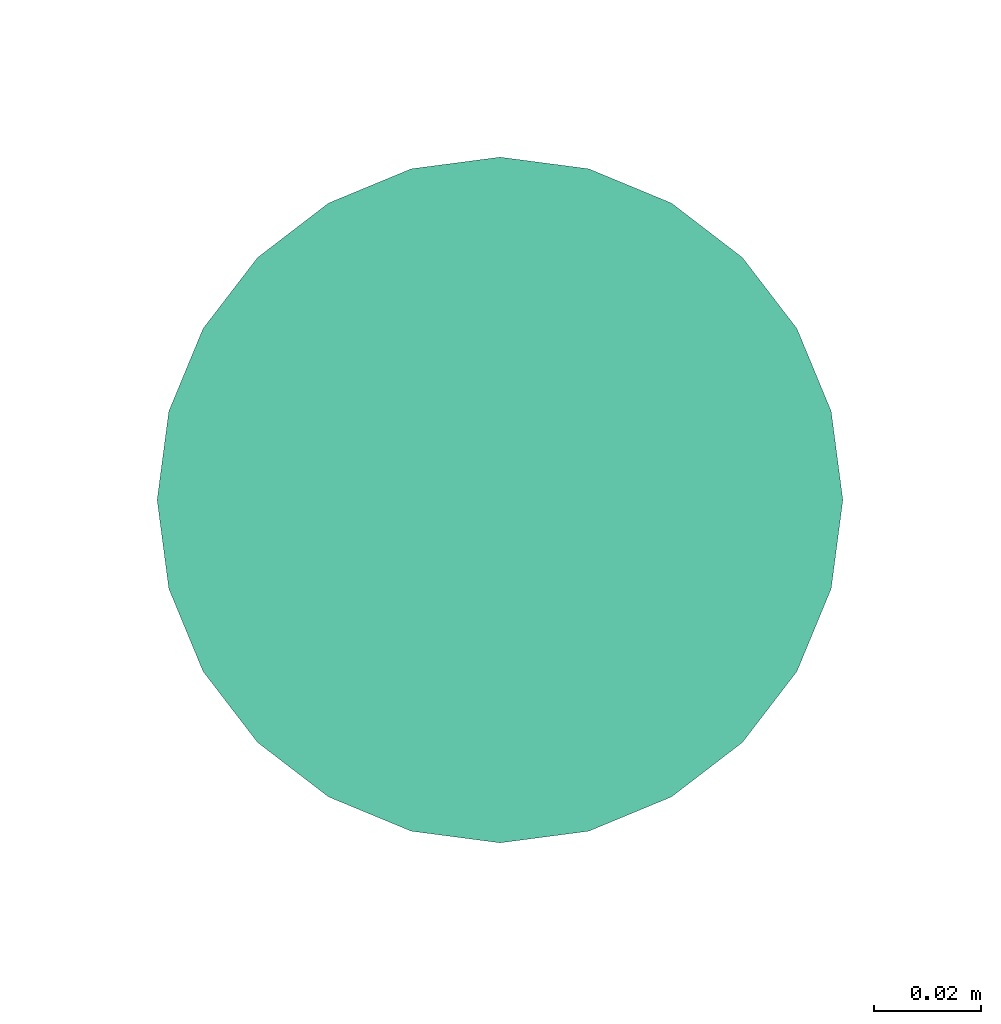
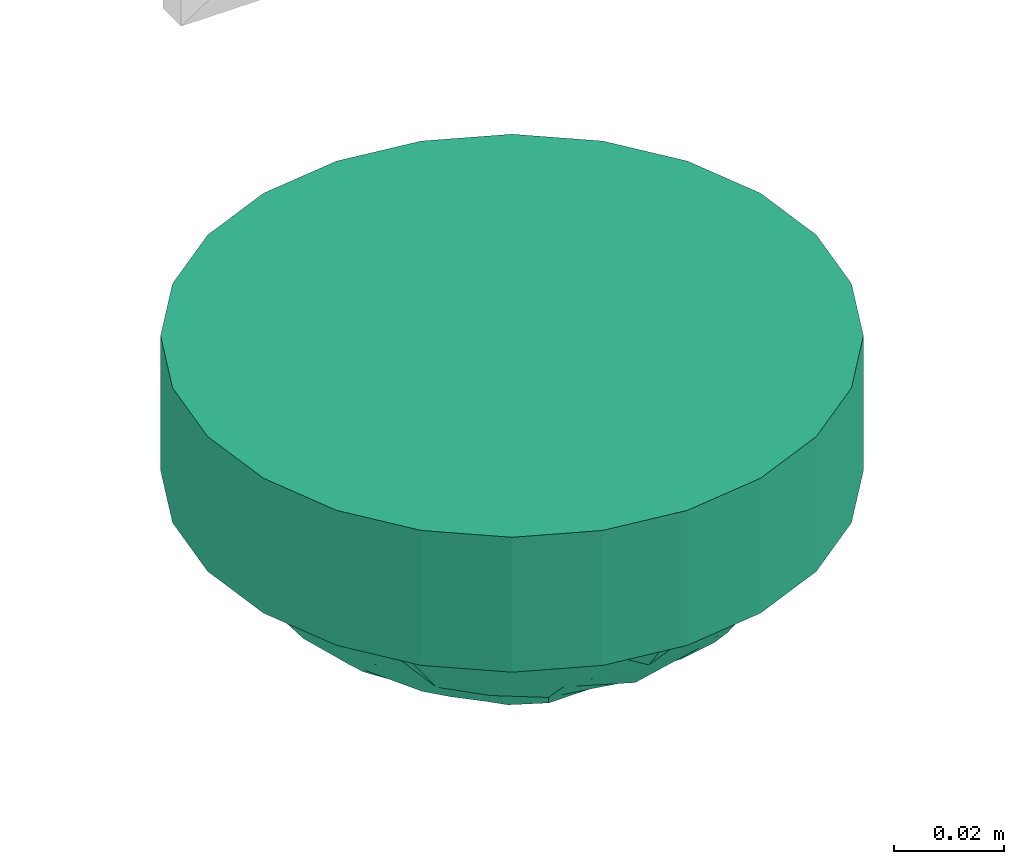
# One storey, part 102 of 146: 1 flow terminal.
"""IFC2X3 building model written with IfcOpenShell, lengths in metres."""

from ifc_helpers import new_model, entity, si_unit, converted_unit, derived_unit, direction, frame, origin, place, context, subcontext, project, spatial, faceted_brep, source, transform, mapped, type_object, type_shapes, element, save


model = new_model("IFC2X3")

# Units and contexts
model_context = context("Model", 3, precision=1e-05, world=origin(), true_north=direction((6.12303176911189e-17, 1.0)))
body_context = subcontext(model_context, "Body", "Model", "MODEL_VIEW")
ifc_project = project(units=[si_unit("LENGTHUNIT", "METRE"), si_unit("AREAUNIT", "SQUARE_METRE"), si_unit("VOLUMEUNIT", "CUBIC_METRE"), converted_unit("PLANEANGLEUNIT", "DEGREE", entity("IfcRatioMeasure", 0.0174532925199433), si_unit("PLANEANGLEUNIT", "RADIAN"), dimensions=[0, 0, 0, 0, 0, 0, 0]), si_unit("MASSUNIT", "GRAM", prefix="KILO"), derived_unit("MASSDENSITYUNIT", [(si_unit("MASSUNIT", "GRAM", prefix="KILO"), 1), (si_unit("LENGTHUNIT", "METRE"), -3)]), si_unit("TIMEUNIT", "SECOND"), si_unit("FREQUENCYUNIT", "HERTZ"), si_unit("THERMODYNAMICTEMPERATUREUNIT", "DEGREE_CELSIUS"), derived_unit("THERMALTRANSMITTANCEUNIT", [(si_unit("MASSUNIT", "GRAM", prefix="KILO"), 1), (si_unit("THERMODYNAMICTEMPERATUREUNIT", "KELVIN"), -1), (si_unit("TIMEUNIT", "SECOND"), -3)]), derived_unit("VOLUMETRICFLOWRATEUNIT", [(si_unit("LENGTHUNIT", "METRE"), 3), (si_unit("TIMEUNIT", "SECOND"), -1)]), si_unit("ELECTRICCURRENTUNIT", "AMPERE"), si_unit("ELECTRICVOLTAGEUNIT", "VOLT"), si_unit("POWERUNIT", "WATT"), si_unit("FORCEUNIT", "NEWTON"), si_unit("ILLUMINANCEUNIT", "LUX"), si_unit("LUMINOUSFLUXUNIT", "LUMEN"), si_unit("LUMINOUSINTENSITYUNIT", "CANDELA"), derived_unit("USERDEFINED", [(si_unit("MASSUNIT", "GRAM", prefix="KILO"), -1), (si_unit("LENGTHUNIT", "METRE"), -2), (si_unit("TIMEUNIT", "SECOND"), 3), (si_unit("LUMINOUSFLUXUNIT", "LUMEN"), 1)]), derived_unit("LINEARVELOCITYUNIT", [(si_unit("LENGTHUNIT", "METRE"), 1), (si_unit("TIMEUNIT", "SECOND"), -1)]), si_unit("PRESSUREUNIT", "PASCAL"), derived_unit("USERDEFINED", [(si_unit("LENGTHUNIT", "METRE"), -2), (si_unit("MASSUNIT", "GRAM", prefix="KILO"), 1), (si_unit("TIMEUNIT", "SECOND"), -2)])], contexts=[model_context])

# Site, building, storey
site_placement = place(None, origin())
site = spatial("IfcSite", under=ifc_project, at=site_placement, Name="Default", CompositionType="ELEMENT")
building_placement = place(site_placement, origin())
building = spatial("IfcBuilding", under=site, at=building_placement, CompositionType="ELEMENT")
storey_placement = place(building_placement, origin())
storey = spatial("IfcBuildingStorey", under=building, at=storey_placement, Name="S01", CompositionType="ELEMENT", Elevation=0.0)

# Flow terminal
light_fixture_type = type_object("IfcLightFixtureType", Name="Détecteur 360°", PredefinedType="NOTDEFINED")
shared_shape = source(origin(), body_context, "Body", "Brep", [
    faceted_brep([(0.0, -0.0397165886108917, 0.0531256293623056), (0.0, -0.034524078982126, 0.0563702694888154), (-0.0175153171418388, -0.0435914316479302, 0.0478512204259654), (-0.0194029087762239, -0.000878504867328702, 0.0644483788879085), (0.0, 0.0, 0.0669999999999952), (0.0, 0.00603476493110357, 0.0659648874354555), (-0.0174057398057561, -0.0159851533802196, 0.0630502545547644), (-0.0366619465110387, -0.0127227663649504, 0.0549213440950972), (-0.026998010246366, -0.0195753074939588, 0.0584711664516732), (-0.0202403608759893, -0.0335607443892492, 0.054639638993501), (-0.0359767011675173, -0.0348394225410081, 0.0444249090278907), (-0.0276843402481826, -0.0401006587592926, 0.0459804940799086), (-0.0133088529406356, -0.0517577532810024, 0.0400582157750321), (-0.0172617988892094, -0.0486391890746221, 0.042533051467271), (-0.0256912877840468, -0.0533485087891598, 0.0299999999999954), (-0.0462941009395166, -0.0369183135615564, 0.0299999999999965), (0.0, -0.0241390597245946, 0.0628595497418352), (-0.0186245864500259, -0.0267295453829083, 0.0589100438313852), (-0.0139070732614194, -0.0374370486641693, 0.0540817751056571), (0.0, 0.0449090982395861, 0.049880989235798), (-0.0172618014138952, 0.0486391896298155, 0.0425330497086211), (0.0, 0.0397165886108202, 0.0531256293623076), (-0.0186245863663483, 0.0267295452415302, 0.0589100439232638), (-0.0202403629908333, 0.0335607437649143, 0.054639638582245), (-0.0353547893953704, 0.0284533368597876, 0.0494330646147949), (0.0, 0.0120695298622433, 0.0649297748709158), (-0.0249385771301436, 0.0204731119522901, 0.0590841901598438), (-0.0191783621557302, 0.0150189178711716, 0.062775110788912), (-0.0465404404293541, -0.0196510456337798, 0.0438984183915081), (-0.052010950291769, -0.0250471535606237, 0.029999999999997), (-0.0453471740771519, -0.0286501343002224, 0.0397747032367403), (-0.0365036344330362, -0.0226255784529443, 0.0516441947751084), (-0.0175153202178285, 0.0435914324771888, 0.0478512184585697), (-0.0359926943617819, 0.0451334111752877, 0.0299999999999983), (-0.0276843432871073, 0.0401006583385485, 0.0459804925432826), (-0.00849704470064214, -0.0572729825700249, 0.0299999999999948), (0.0, -0.0592123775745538, 0.0299999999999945), (0.0, -0.0545512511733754, 0.0364787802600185), (0.0, -0.049890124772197, 0.0429575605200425), (-0.0169940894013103, -0.055333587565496, 0.0299999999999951), (-0.0359767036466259, 0.0348394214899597, 0.0444249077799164), (-0.025691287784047, 0.0533485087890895, 0.0299999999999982), (-0.0308419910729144, 0.0492409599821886, 0.0299999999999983), (-0.0130265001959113, 0.0514867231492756, 0.040526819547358), (-0.0169940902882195, 0.0553335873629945, 0.029999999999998), (0.0, 0.0498901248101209, 0.0429575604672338), (-0.0353547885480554, -0.0284533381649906, 0.0494330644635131), (0.0, 0.0181042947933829, 0.0638946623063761), (-0.0473669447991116, -0.00128092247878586, 0.0474310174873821), (-0.0485435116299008, -0.00908961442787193, 0.0452357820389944), (-0.0366597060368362, -0.0032867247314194, 0.0563153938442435), (-0.0226425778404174, -0.0107553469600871, 0.0624973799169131), (0.0, -0.00603476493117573, 0.0659648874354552), (0.0, 0.0293315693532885, 0.0596149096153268), (-0.0139070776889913, 0.0374370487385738, 0.0540817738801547), (-0.0449600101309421, 0.018422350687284, 0.0461366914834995), (-0.0453471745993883, 0.0286501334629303, 0.0397747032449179), (-0.0476906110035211, 0.00670602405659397, 0.0466053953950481), (-0.0577277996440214, 0.0131759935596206, 0.0299999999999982), (-0.0577277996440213, 0.00658799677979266, 0.029999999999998), (-0.0577277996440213, 0.0, 0.0299999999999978), (0.0, -0.0449090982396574, 0.0498809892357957), (-0.0308419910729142, -0.049240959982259, 0.0299999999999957), (-0.0359926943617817, -0.0451334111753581, 0.029999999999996), (0.0, 0.0345240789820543, 0.0563702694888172), (-0.0411433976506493, 0.0410258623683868, 0.0299999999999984), (-0.0462941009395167, 0.0369183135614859, 0.0299999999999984), (-0.0491525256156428, -0.03098273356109, 0.0299999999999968), (-0.0577277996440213, -0.0131759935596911, 0.0299999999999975), (0.0, -0.018104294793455, 0.0638946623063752), (-0.0377433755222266, 0.0044838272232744, 0.0554913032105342), (-0.0577277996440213, -0.00658799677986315, 0.0299999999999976), (-0.0385149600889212, 0.0124844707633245, 0.0536578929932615), (-0.0491525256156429, 0.0309827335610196, 0.0299999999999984), (-0.0548693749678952, 0.0191115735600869, 0.0299999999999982), (0.0, 0.0241390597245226, 0.0628595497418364), (-0.014625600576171, 0.0100436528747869, 0.0649170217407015), (-0.0271766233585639, 0.00920278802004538, 0.0609170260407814), (0.0, -0.0120695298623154, 0.0649297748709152), (-0.0520109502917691, 0.0250471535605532, 0.0299999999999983), (-0.0411433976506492, -0.0410258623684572, 0.0299999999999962), (-0.0548693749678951, -0.0191115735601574, 0.0299999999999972), (0.0, -0.0293315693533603, 0.0596149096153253), (0.0, 0.0545512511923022, 0.0364787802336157), (0.0, 0.0592123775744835, 0.0299999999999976), (-0.00849704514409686, 0.057272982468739, 0.0299999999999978), (-0.0127455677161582, 0.0563032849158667, 0.0299999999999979), (-0.0213426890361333, 0.054341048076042, 0.0299999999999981), (0.0175153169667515, 0.0435914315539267, 0.0478512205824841), (0.0194029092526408, 0.000878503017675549, 0.0644483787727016), (0.017405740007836, 0.0159851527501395, 0.0630502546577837), (0.0366619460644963, 0.012722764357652, 0.0549213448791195), (0.0269980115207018, 0.0195753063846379, 0.0584711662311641), (0.0202403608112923, 0.0335607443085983, 0.0546396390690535), (0.0359767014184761, 0.0348394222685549, 0.0444249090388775), (0.0276843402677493, 0.0401006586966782, 0.0459804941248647), (0.0133088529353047, 0.0517577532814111, 0.0400582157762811), (0.0172617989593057, 0.0486391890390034, 0.0425330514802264), (0.0256912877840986, 0.0533485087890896, 0.0299999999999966), (0.0462941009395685, 0.0369183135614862, 0.0299999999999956), (0.00849704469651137, 0.0572729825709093, 0.0299999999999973), (0.0169940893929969, 0.0553335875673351, 0.029999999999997), (0.0172617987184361, -0.0486391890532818, 0.0425330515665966), (0.025691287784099, -0.0533485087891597, 0.0299999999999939), (0.0308419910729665, -0.0492409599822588, 0.0299999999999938), (0.0175153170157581, -0.0435914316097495, 0.0478512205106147), (0.0186245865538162, -0.0267295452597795, 0.0589100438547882), (0.0202403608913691, -0.03356074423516, 0.0546396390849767), (0.0353547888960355, -0.0284533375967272, 0.0494330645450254), (0.0249385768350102, -0.0204731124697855, 0.0590841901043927), (0.0191783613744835, -0.0150189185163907, 0.062775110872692), (0.0465404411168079, 0.0196510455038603, 0.0438984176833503), (0.0577277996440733, 0.0131759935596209, 0.0299999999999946), (0.0548693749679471, 0.0191115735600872, 0.0299999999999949), (0.0520109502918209, 0.0250471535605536, 0.0299999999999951), (0.0365036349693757, 0.0226255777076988, 0.0516441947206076), (0.0186245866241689, 0.0267295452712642, 0.0589100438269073), (0.0359926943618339, -0.0451334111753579, 0.0299999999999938), (0.0276843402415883, -0.0401006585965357, 0.0459804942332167), (0.0139070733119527, 0.0374370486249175, 0.0540817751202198), (0.0359767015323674, -0.0348394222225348, 0.044424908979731), (0.0226425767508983, 0.0107553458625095, 0.0624973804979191), (0.0169940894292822, -0.0553335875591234, 0.0299999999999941), (0.0130264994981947, -0.0514867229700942, 0.0405268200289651), (0.0453471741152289, 0.0286501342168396, 0.039774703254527), (0.0353547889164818, 0.0284533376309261, 0.0494330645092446), (0.0473669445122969, 0.00128092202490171, 0.0474310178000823), (0.0485435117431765, 0.00908961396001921, 0.0452357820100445), (0.0366597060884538, 0.00328672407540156, 0.0563153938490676), (0.0139070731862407, -0.0374370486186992, 0.0540817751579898), (0.0449600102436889, -0.018422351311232, 0.0461366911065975), (0.0453471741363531, -0.0286501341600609, 0.039774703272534), (0.0476906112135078, -0.00670602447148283, 0.046605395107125), (0.0577277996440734, -0.0131759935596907, 0.0299999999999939), (0.0577277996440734, -0.00658799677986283, 0.0299999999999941), (0.0577277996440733, 0.0, 0.0299999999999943), (0.0308419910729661, 0.0492409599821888, 0.0299999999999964), (0.0359926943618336, 0.0451334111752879, 0.0299999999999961), (0.0411433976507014, -0.041025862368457, 0.0299999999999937), (0.0462941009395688, -0.0369183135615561, 0.0299999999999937), (0.0491525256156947, 0.0309827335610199, 0.0299999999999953), (0.037743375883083, -0.00448382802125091, 0.0554913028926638), (0.0577277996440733, 0.00658799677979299, 0.0299999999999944), (0.0385149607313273, -0.0124844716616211, 0.0536578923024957), (0.049152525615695, -0.0309827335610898, 0.0299999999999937), (0.0548693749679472, -0.0191115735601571, 0.0299999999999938), (0.0146256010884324, -0.0100436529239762, 0.0649170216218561), (0.0271766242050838, -0.00920278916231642, 0.0609170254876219), (0.0520109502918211, -0.0250471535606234, 0.0299999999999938), (0.041143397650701, 0.0410258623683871, 0.0299999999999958), (0.00849704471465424, -0.0572729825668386, 0.0299999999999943), (0.0127455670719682, -0.056303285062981, 0.0299999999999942), (0.0213426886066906, -0.0543410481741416, 0.029999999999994), (0.0, 0.0, 0.0299999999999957)], [[[0, 1, 2]], [[3, 4, 5]], [[6, 7, 8]], [[9, 10, 11]], [[12, 13, 14]], [[10, 15, 11]], [[9, 16, 17]], [[18, 9, 11]], [[19, 20, 21]], [[22, 23, 24]], [[25, 26, 27]], [[28, 29, 30]], [[8, 31, 17]], [[32, 33, 34]], [[35, 36, 37, 38, 39]], [[23, 40, 24]], [[20, 41, 42]], [[19, 43, 20]], [[44, 43, 45]], [[20, 32, 21]], [[30, 10, 46]], [[22, 26, 47]], [[48, 49, 50]], [[3, 51, 52]], [[53, 54, 23]], [[55, 24, 56]], [[57, 58, 59, 60]], [[13, 61, 0]], [[13, 0, 2]], [[2, 62, 13]], [[18, 2, 1]], [[2, 11, 63]], [[32, 64, 21]], [[32, 42, 33]], [[34, 33, 65, 66]], [[20, 42, 32]], [[54, 32, 34]], [[28, 30, 31]], [[10, 67, 15]], [[49, 68, 28]], [[8, 17, 69]], [[7, 6, 51]], [[28, 31, 7]], [[57, 48, 70]], [[58, 57, 55]], [[48, 71, 49]], [[70, 48, 50]], [[3, 50, 51]], [[55, 26, 24]], [[72, 57, 70]], [[26, 55, 72]], [[56, 40, 73]], [[56, 74, 55]], [[47, 75, 22]], [[52, 4, 3]], [[7, 50, 49]], [[5, 76, 3]], [[70, 3, 77]], [[51, 78, 52]], [[26, 25, 47]], [[76, 25, 27]], [[23, 22, 75]], [[26, 22, 24]], [[53, 64, 54]], [[23, 34, 40]], [[66, 40, 34]], [[40, 66, 73]], [[56, 73, 79, 74]], [[72, 27, 26]], [[40, 56, 24]], [[23, 75, 53]], [[69, 17, 16]], [[78, 6, 69]], [[46, 10, 9]], [[46, 9, 17]], [[50, 7, 51]], [[30, 29, 67]], [[80, 63, 11, 15]], [[28, 68, 81, 29]], [[10, 30, 67]], [[30, 46, 31]], [[82, 18, 1]], [[82, 16, 9]], [[28, 7, 49]], [[12, 39, 38]], [[61, 13, 12]], [[83, 84, 85, 86, 44, 45]], [[43, 41, 20]], [[44, 87, 41, 43]], [[32, 54, 64]], [[23, 54, 34]], [[9, 18, 82]], [[2, 18, 11]], [[39, 12, 14]], [[38, 61, 12]], [[62, 2, 63]], [[62, 14, 13]], [[17, 31, 46]], [[7, 31, 8]], [[48, 60, 71]], [[71, 68, 49]], [[60, 48, 57]], [[3, 70, 50]], [[72, 70, 77]], [[72, 77, 27]], [[55, 57, 72]], [[74, 58, 55]], [[76, 27, 77]], [[3, 76, 77]], [[25, 76, 5]], [[69, 6, 8]], [[78, 51, 6]], [[45, 43, 19]], [[21, 64, 88]], [[89, 4, 52]], [[90, 91, 92]], [[93, 94, 95]], [[96, 97, 98]], [[94, 99, 95]], [[100, 84, 83, 45, 101]], [[102, 103, 104]], [[102, 105, 0]], [[106, 107, 108]], [[78, 109, 110]], [[111, 112, 113, 114]], [[92, 115, 116]], [[105, 117, 118]], [[119, 93, 95]], [[107, 120, 108]], [[89, 121, 5]], [[122, 123, 38]], [[61, 123, 102]], [[93, 75, 116]], [[124, 94, 125]], [[106, 109, 69]], [[126, 127, 128]], [[61, 102, 0]], [[82, 129, 107]], [[130, 108, 131]], [[132, 133, 134, 135]], [[97, 19, 21]], [[97, 21, 88]], [[88, 136, 97]], [[119, 88, 64]], [[88, 95, 137]], [[105, 1, 0]], [[105, 104, 117]], [[118, 117, 138, 139]], [[102, 104, 105]], [[129, 105, 118]], [[111, 124, 115]], [[94, 140, 99]], [[127, 112, 111]], [[92, 116, 47]], [[91, 90, 121]], [[111, 115, 91]], [[132, 126, 141]], [[133, 132, 130]], [[126, 142, 127]], [[141, 126, 128]], [[89, 128, 121]], [[130, 109, 108]], [[143, 132, 141]], [[109, 130, 143]], [[131, 120, 144]], [[131, 145, 130]], [[69, 16, 106]], [[5, 4, 89]], [[91, 128, 127]], [[52, 146, 89]], [[141, 89, 147]], [[121, 25, 5]], [[109, 78, 69]], [[146, 78, 110]], [[107, 106, 16]], [[109, 106, 108]], [[82, 1, 129]], [[107, 118, 120]], [[139, 120, 118]], [[120, 139, 144]], [[131, 144, 148, 145]], [[143, 110, 109]], [[120, 131, 108]], [[107, 16, 82]], [[47, 116, 75]], [[25, 90, 47]], [[125, 94, 93]], [[125, 93, 116]], [[128, 91, 121]], [[124, 114, 140]], [[149, 137, 95, 99]], [[111, 114, 124]], [[94, 124, 140]], [[124, 125, 115]], [[53, 119, 64]], [[53, 75, 93]], [[111, 91, 127]], [[96, 101, 45]], [[19, 97, 96]], [[37, 36, 150, 151, 122, 38]], [[123, 103, 102]], [[122, 152, 103, 123]], [[105, 129, 1]], [[107, 129, 118]], [[93, 119, 53]], [[88, 119, 95]], [[101, 96, 98]], [[45, 19, 96]], [[136, 88, 137]], [[136, 98, 97]], [[116, 115, 125]], [[91, 115, 92]], [[126, 135, 142]], [[142, 112, 127]], [[135, 126, 132]], [[89, 141, 128]], [[143, 141, 147]], [[143, 147, 110]], [[130, 132, 143]], [[145, 133, 130]], [[146, 110, 147]], [[89, 146, 147]], [[78, 146, 52]], [[47, 90, 92]], [[25, 121, 90]], [[38, 123, 61]], [[153, 66, 65]], [[153, 65, 33]], [[153, 33, 42]], [[153, 42, 41]], [[153, 41, 87]], [[153, 73, 66]], [[153, 79, 73]], [[153, 74, 79]], [[153, 58, 74]], [[153, 87, 44]], [[153, 44, 86]], [[153, 86, 85]], [[153, 85, 84]], [[153, 84, 100]], [[153, 59, 58]], [[153, 60, 59]], [[153, 71, 60]], [[153, 68, 71]], [[153, 81, 68]], [[153, 29, 81]], [[153, 67, 29]], [[153, 15, 67]], [[153, 80, 15]], [[153, 63, 80]], [[153, 62, 63]], [[153, 14, 62]], [[153, 39, 14]], [[153, 35, 39]], [[153, 36, 35]], [[153, 100, 101]], [[153, 101, 98]], [[153, 98, 136]], [[153, 136, 137]], [[153, 137, 149]], [[153, 149, 99]], [[153, 99, 140]], [[153, 140, 114]], [[153, 114, 113]], [[153, 113, 112]], [[153, 112, 142]], [[153, 150, 36]], [[153, 151, 150]], [[153, 122, 151]], [[153, 152, 122]], [[153, 103, 152]], [[153, 104, 103]], [[153, 117, 104]], [[153, 138, 117]], [[153, 139, 138]], [[153, 144, 139]], [[153, 148, 144]], [[153, 145, 148]], [[153, 133, 145]], [[153, 142, 135]], [[153, 135, 134]], [[153, 134, 133]]]),
    faceted_brep([(0.0165644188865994, -0.0618192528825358, 0.029999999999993), (0.0320000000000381, -0.0554256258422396, 0.0299999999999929), (0.0452548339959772, -0.0452548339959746, 0.0299999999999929), (0.0554256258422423, -0.0320000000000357, 0.029999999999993), (0.0618192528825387, -0.016564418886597, 0.0299999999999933), (0.0640000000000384, 0.0, 0.0299999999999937), (0.0618192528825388, 0.016564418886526, 0.0299999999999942), (0.0554256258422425, 0.0319999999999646, 0.0299999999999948), (0.0452548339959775, 0.0452548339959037, 0.0299999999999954), (0.0320000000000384, 0.0554256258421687, 0.0299999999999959), (0.0165644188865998, 0.061819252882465, 0.0299999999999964), (0.0, 0.0639999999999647, 0.0299999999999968), (-0.0165644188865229, 0.061819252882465, 0.0299999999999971), (-0.0319999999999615, 0.0554256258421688, 0.0299999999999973), (-0.0452548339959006, 0.0452548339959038, 0.0299999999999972), (-0.0554256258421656, 0.0319999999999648, 0.0299999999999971), (-0.0618192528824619, 0.0165644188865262, 0.0299999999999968), (-0.0639999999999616, 0.0, 0.0299999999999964), (-0.061819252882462, -0.0165644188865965, 0.0299999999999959), (-0.0554256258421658, -0.0320000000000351, 0.0299999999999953), (-0.0452548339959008, -0.0452548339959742, 0.0299999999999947), (-0.0319999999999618, -0.0554256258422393, 0.0299999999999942), (-0.0165644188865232, -0.0618192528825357, 0.0299999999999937), (0.0, -0.0640000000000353, 0.0299999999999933), (0.0165644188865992, 0.0618192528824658, 0.0), (0.0320000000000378, 0.0554256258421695, 0.0), (0.0452548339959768, 0.0452548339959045, 0.0), (0.0554256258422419, 0.0319999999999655, 0.0), (0.0618192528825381, 0.0165644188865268, 0.0), (0.0640000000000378, 0.0, 0.0), (0.061819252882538, -0.0165644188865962, 0.0), (0.0554256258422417, -0.0320000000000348, 0.0), (0.0452548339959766, -0.0452548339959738, 0.0), (0.0320000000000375, -0.0554256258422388, 0.0), (0.0165644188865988, -0.061819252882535, 0.0), (0.0, -0.0640000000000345, 0.0), (-0.0165644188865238, -0.0618192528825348, 0.0), (-0.0319999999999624, -0.0554256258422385, 0.0), (-0.0452548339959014, -0.0452548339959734, 0.0), (-0.0554256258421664, -0.0320000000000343, 0.0), (-0.0618192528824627, -0.0165644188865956, 0.0), (-0.0639999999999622, 0.0, 0.0), (-0.0618192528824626, 0.016564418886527, 0.0), (-0.0554256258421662, 0.0319999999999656, 0.0), (-0.0452548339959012, 0.0452548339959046, 0.0), (-0.0319999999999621, 0.0554256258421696, 0.0), (-0.0165644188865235, 0.0618192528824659, 0.0), (0.0, 0.0639999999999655, 0.0)], [[[0, 1, 2, 3, 4, 5, 6, 7, 8, 9, 10, 11, 12, 13, 14, 15, 16, 17, 18, 19, 20, 21, 22, 23]], [[24, 25, 26, 27, 28, 29, 30, 31, 32, 33, 34, 35, 36, 37, 38, 39, 40, 41, 42, 43, 44, 45, 46, 47]], [[40, 18, 17, 41]], [[39, 19, 18, 40]], [[21, 20, 38, 37]], [[39, 38, 20, 19]], [[22, 21, 37, 36]], [[23, 22, 36, 35]], [[34, 0, 23, 35]], [[33, 1, 0, 34]], [[3, 2, 32, 31]], [[33, 32, 2, 1]], [[4, 3, 31, 30]], [[5, 4, 30, 29]], [[28, 6, 5, 29]], [[27, 7, 6, 28]], [[9, 8, 26, 25]], [[27, 26, 8, 7]], [[10, 9, 25, 24]], [[11, 10, 24, 47]], [[46, 12, 11, 47]], [[45, 13, 12, 46]], [[42, 41, 17, 16]], [[44, 14, 13, 45]], [[43, 15, 14, 44]], [[43, 42, 16, 15]]]),
])
type_shapes(light_fixture_type, [shared_shape])
flow_terminal_placement = place(building_placement, frame((64.6218287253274, -189.208069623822, 3.37), z_axis=(0.0, 0.0, -1.0), x_axis=(-1.0, 0.0, 0.0)))
element("IfcFlowTerminal", 1, at=flow_terminal_placement, inside=storey, type_object=light_fixture_type, Name="INT - Détecteur Luminosite:Détecteur 360°", ObjectType="INT - Détecteur Luminosite:Détecteur 360°", context=body_context, shape_type="MappedRepresentation", body=[
    mapped(shared_shape, transform((0.0, 0.0, 0.0), scale=1.0)),
])

save(model, "model.ifc")
